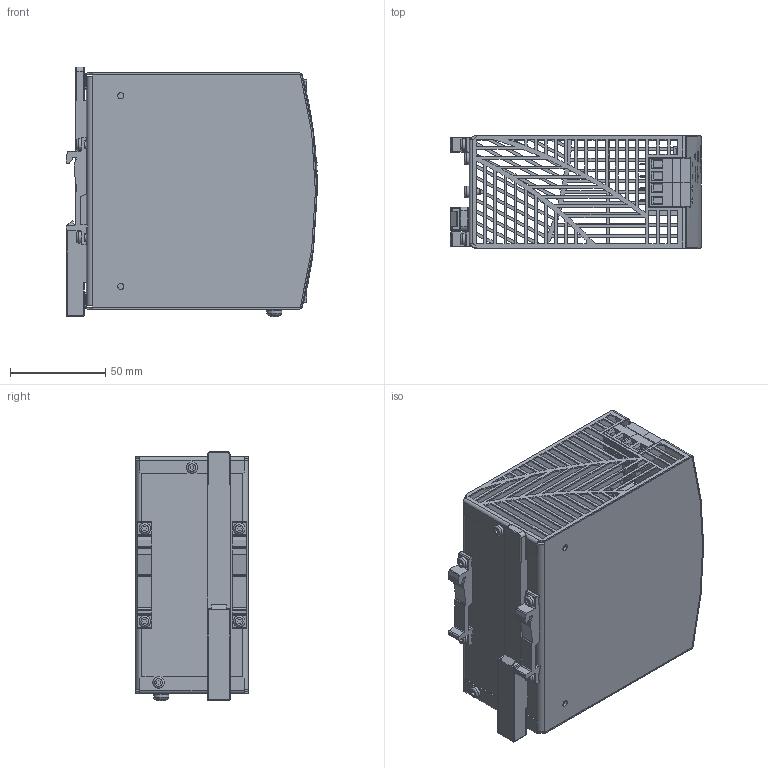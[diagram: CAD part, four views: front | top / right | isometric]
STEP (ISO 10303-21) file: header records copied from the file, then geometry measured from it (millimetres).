
FILE_DESCRIPTION(/* description */ (''),/* implementation_level */ '2;1');
FILE_NAME(/* name */ 'L:\MKT-GER\Neue Webdokumente\Daten von KO\PIC480.241D (434.00)\md3_pic480_241-D.stp',/* time_stamp */ '2017-12-22T08:31:16+01:00',/* author */ ('rahns'),/* organization */ (''),/* preprocessor_version */ 'ST-DEVELOPER v17',/* originating_system */ 'Autodesk Inventor 2018',/* authorisation */ '');
FILE_SCHEMA (('CONFIG_CONTROL_DESIGN'));
Products named in the file (14): 434.00; HOUSING BODY 434.00; MKT_SLIDER; MKT_T HOLDER; MKT_SCREW 3x6; HOUSING COVER 434.00; FRONTFOIL 434.00; MKT_LP2BK-D2; MKT_LP3BK-D2; MKT_LED GN; MKT_SCREW 4x8; MKT_WASHER 4; MKT_POTI; MKT_LP2SW-R6
Assembly tree (20 placements, depth 2):
  434.00
    HOUSING BODY 434.00
    MKT_SLIDER
    MKT_SCREW 3x6  x6
    MKT_T HOLDER  x2
    HOUSING COVER 434.00
    FRONTFOIL 434.00
    MKT_LP2BK-D2  x2
    MKT_LP3BK-D2
    MKT_LED GN
    MKT_SCREW 4x8
    MKT_WASHER 4
    MKT_POTI
    MKT_LP2SW-R6
Bounding box: 131.66 x 59 x 130.77 mm (x, y, z)
Volume: 89769.1 mm3; surface area: 130947.6 mm2
Topology: 20 solids, 20 shells, 1697 faces, 4656 edges, 3110 vertices
Faces by surface type: plane 1153, cylinder 276, bspline 221, cone 22, torus 16, sphere 9
Full cylindrical faces by diameter (mm): 0.05 x4, 0.3 x4, 0.5 x3, 2.45 x2, 2.7 x1, 3 x6, 3.1 x4, 3.2 x3, 3.621 x1, 3.8 x1, 4 x2, 4.6 x1, 5 x1, 5.15 x7, 5.9 x1, 6 x6
Entity records: 56993 total; most frequent: CARTESIAN_POINT 18685, ORIENTED_EDGE 8174, DIRECTION 6953, EDGE_CURVE 4087, LINE 2835, VECTOR 2835, VERTEX_POINT 2720, AXIS2_PLACEMENT_3D 2059
